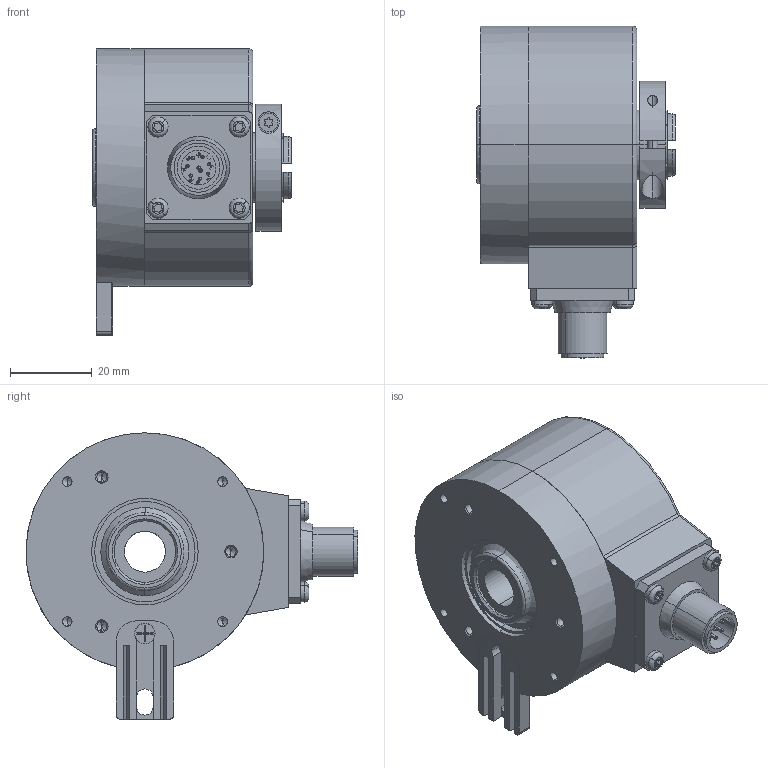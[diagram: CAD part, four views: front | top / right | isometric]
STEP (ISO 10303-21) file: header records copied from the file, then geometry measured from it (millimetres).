
FILE_DESCRIPTION (( 'STEP AP203' ), '1' );
FILE_NAME ('K58I.OXX.XXXXX.XC21510.6XRC5.step', '2025-12-08T12:01:30', ( '' ), ( '' ), 'SwSTEP 2.0', 'SolidWorks 2021', '' );
FILE_SCHEMA (( 'CONFIG_CONTROL_DESIGN' ));
Length unit declared in the file: millimetre
Products named in the file (1): K58I.OXX.XXXXX.XC21510.6XRC5
Bounding box: 48.5 x 81 x 69.9 mm (x, y, z)
Volume: 110765 mm3; surface area: 36868.6 mm2
Topology: 8 solids, 8 shells, 583 faces, 1524 edges, 978 vertices
Faces by surface type: cylinder 237, plane 200, bspline 70, cone 51, sphere 16, torus 9
Entity records: 22057 total; most frequent: CARTESIAN_POINT 7992, ORIENTED_EDGE 2956, DIRECTION 2850, EDGE_CURVE 1478, AXIS2_PLACEMENT_3D 1054, VERTEX_POINT 962, LINE 742, VECTOR 742
